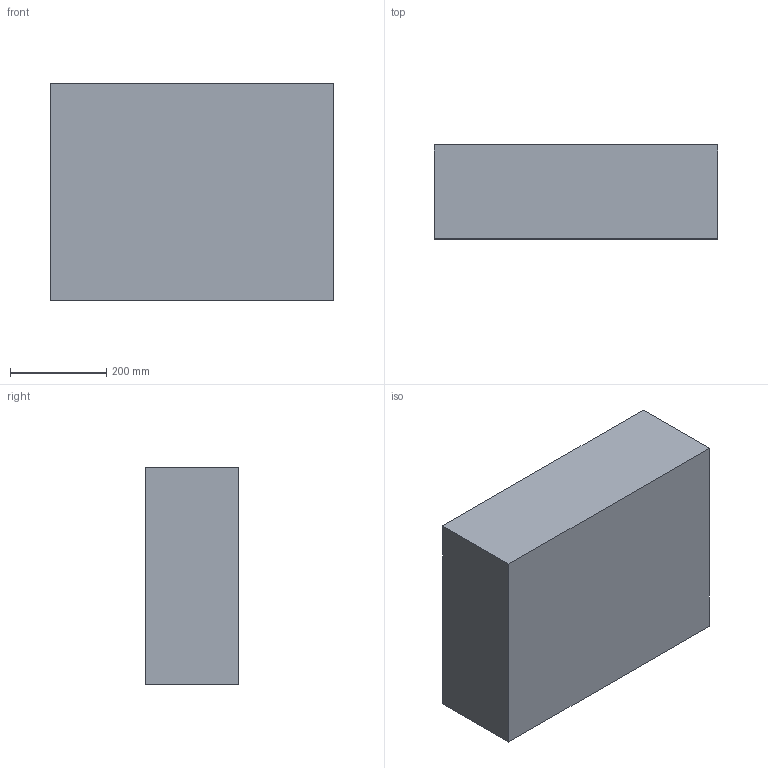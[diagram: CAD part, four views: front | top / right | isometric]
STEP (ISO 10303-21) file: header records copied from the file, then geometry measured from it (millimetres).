
FILE_DESCRIPTION (( 'STEP AP214' ), '1' );
FILE_NAME ('V550 PP BOTTOM TUB 2-4-2024.STEP', '2024-02-12T04:30:22', ( '' ), ( '' ), 'SwSTEP 2.0', 'SolidWorks 2021', '' );
FILE_SCHEMA (( 'AUTOMOTIVE_DESIGN' ));
Length unit declared in the file: millimetre
Products named in the file (1): V550 PP BOTTOM TUB 2-4-2024
Bounding box: 590.22 x 194.88 x 453.17 mm (x, y, z)
Volume: 18308042.8 mm3; surface area: 1301160.6 mm2
Topology: 1 solids, 1 shells, 552 faces, 1315 edges, 714 vertices
Faces by surface type: bspline 466, plane 86
Entity records: 21660 total; most frequent: CARTESIAN_POINT 13431, ORIENTED_EDGE 2508, EDGE_CURVE 1254, VERTEX_POINT 714, DIRECTION 643, EDGE_LOOP 562, ADVANCED_FACE 552, FACE_OUTER_BOUND 552
